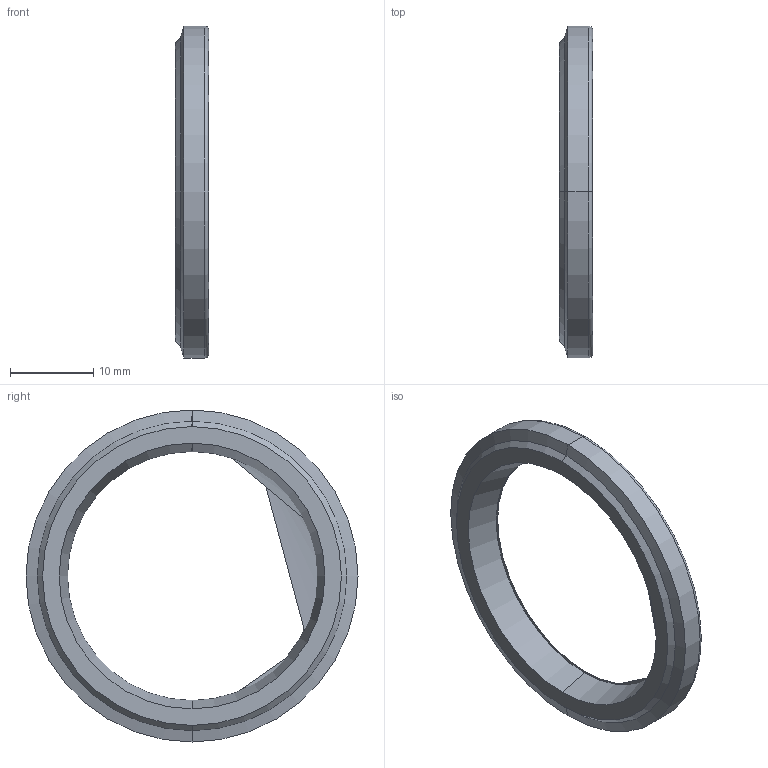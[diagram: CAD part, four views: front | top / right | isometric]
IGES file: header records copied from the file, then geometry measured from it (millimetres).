
Start section: 3D InterOp IGES (Version 21 0 1), Spatial Corp. Copyright (c) 1999-2007.
Global section: file name: CBX-30.igs; native system: Spatial Corp.; preprocessor: 3D InterOp GENERIC/IGES 3.0; author: Noname; organization: Noname; date: 20220217.162024; units: millimetre
Bounding box: 4 x 40 x 40 mm (x, y, z)
Surface area: 1874.5 mm2 (no closed solid volume)
Topology: 0 solids, 0 shells, 20 faces, 80 edges, 80 vertices
Faces by surface type: revolution 16, extrusion 4
